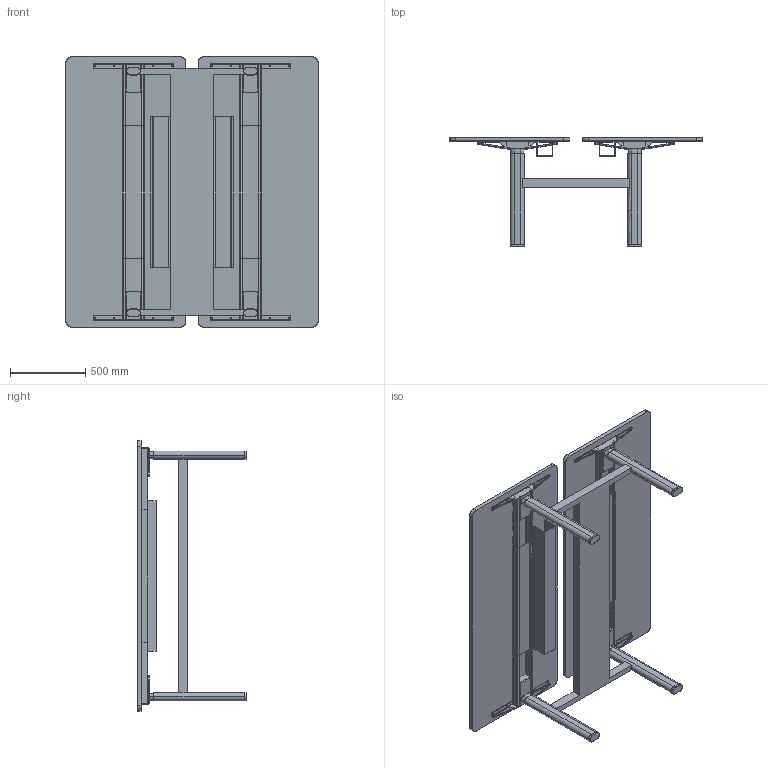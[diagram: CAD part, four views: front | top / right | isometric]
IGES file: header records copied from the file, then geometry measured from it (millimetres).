
Start section: SolidWorks IGES file using analytic representation for surfaces
Global section: file name: C:\Users\simone.cerana\OneDrive - Gruppo Tecno\Desktop\CHINA\DISEGNI DI SERIE\ASSIEMI LISTINO\AXIS LISTINO\FULL OPT\AX1816FO.IGS; native system: SolidWorks 2024; preprocessor: SolidWorks 2024; author: simone.cerana; date: 260512.112347; units: millimetre
Bounding box: 1680 x 730.14 x 1800 mm (x, y, z)
Surface area: 10738625.6 mm2 (no closed solid volume)
Topology: 0 solids, 0 shells, 622 faces, 6976 edges, 6968 vertices
Faces by surface type: bspline 334, revolution 288
